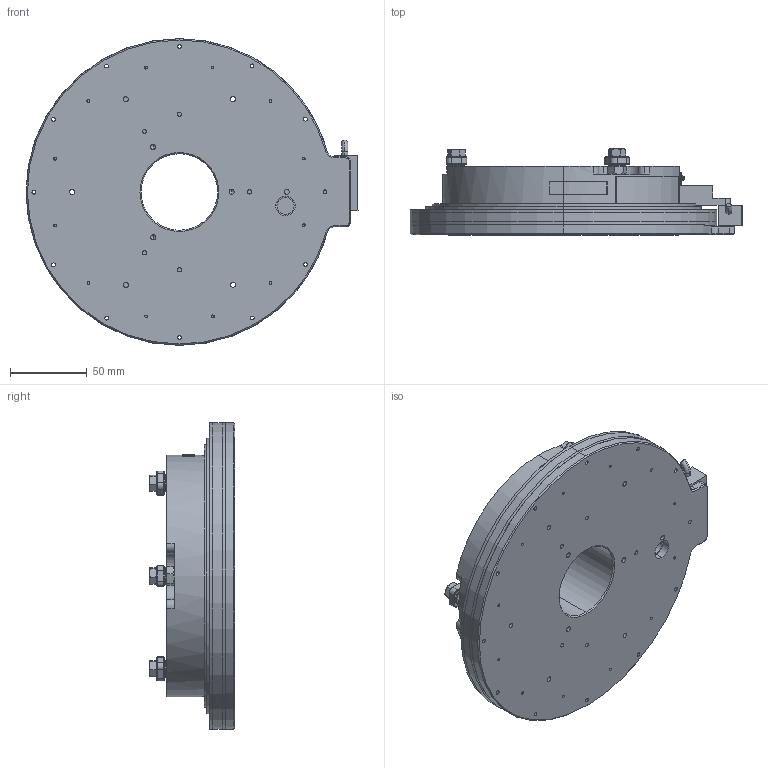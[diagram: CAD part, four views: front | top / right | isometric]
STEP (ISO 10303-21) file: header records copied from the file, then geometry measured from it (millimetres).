
FILE_DESCRIPTION (( 'STEP AP203' ), '1' );
FILE_NAME ('DDT-200.STEP', '2011-09-06T23:05:22', ( '' ), ( '' ), 'SwSTEP 2.0', 'SolidWorks 2010', '' );
FILE_SCHEMA (( 'CONFIG_CONTROL_DESIGN' ));
Length unit declared in the file: inch
Products named in the file (22): 101453 DDT200 50mm THRU HOLE STAGE; Renishaw RGH20 Assembly_200-pt5micron; 100464 Renishaw RESR Ring_RESR200; 100462 Renishaw RGH20_DIGITAL 0.5 1.5M DSUB; 100636 KAYDON BEARING_KA025ARO; DDT-200; 100112 SERVOMOTOR Rotor_Hathaway HT05000; 100636 KAYDON BEARING_KC060ARO; 100113 SERVOMOTOR Stator_Hathaway HT05000; 100072 Motor, Frameless Part Set_Hathaway HT05000-K01; 100007 HEX NUT_M6; 101161 DDT200 READ HEAD MOUNT; 365911 LEVELING FOOT; 101455 DDT200 PRELOAD NUT; 100091 REN RGM22S; 100789 STAR WASHER_M4; 101454 DDT200 BASE; 365913 LEVELING FOOT NUT; 100013 SCREW, SET_M4X6; 100249 RING TERMINAL; 100179-RADIUSED PART NUMBER LABEL_DDT200; SERIAL  NUMBER LABEL RADIUSED_DDT200
Assembly tree (27 placements, depth 3):
  DDT-200
    365911 LEVELING FOOT  x3
    365913 LEVELING FOOT NUT  x3
    101455 DDT200 PRELOAD NUT
    100179-RADIUSED PART NUMBER LABEL_DDT200
    100789 STAR WASHER_M4
    100007 HEX NUT_M6  x3
    100636 KAYDON BEARING_KC060ARO
    100013 SCREW, SET_M4X6
    101161 DDT200 READ HEAD MOUNT
    Renishaw RGH20 Assembly_200-pt5micron
      100462 Renishaw RGH20_DIGITAL 0.5 1.5M DSUB
      100464 Renishaw RESR Ring_RESR200
    100072 Motor, Frameless Part Set_Hathaway HT05000-K01
      100113 SERVOMOTOR Stator_Hathaway HT05000
      100112 SERVOMOTOR Rotor_Hathaway HT05000
    101453 DDT200 50mm THRU HOLE STAGE
    100636 KAYDON BEARING_KA025ARO
    101454 DDT200 BASE
    100091 REN RGM22S
    100249 RING TERMINAL
    SERIAL  NUMBER LABEL RADIUSED_DDT200
Bounding box: 216.75 x 55.98 x 200.31 mm (x, y, z)
Volume: 936209 mm3; surface area: 279206.7 mm2
Topology: 25 solids, 25 shells, 1007 faces, 2498 edges, 1584 vertices
Faces by surface type: plane 435, cylinder 368, cone 144, torus 40, sphere 12, bspline 8
Entity records: 29677 total; most frequent: CARTESIAN_POINT 6005, DIRECTION 4688, ORIENTED_EDGE 4196, EDGE_CURVE 2098, AXIS2_PLACEMENT_3D 1784, VERTEX_POINT 1356, VECTOR 1120, LINE 1120
